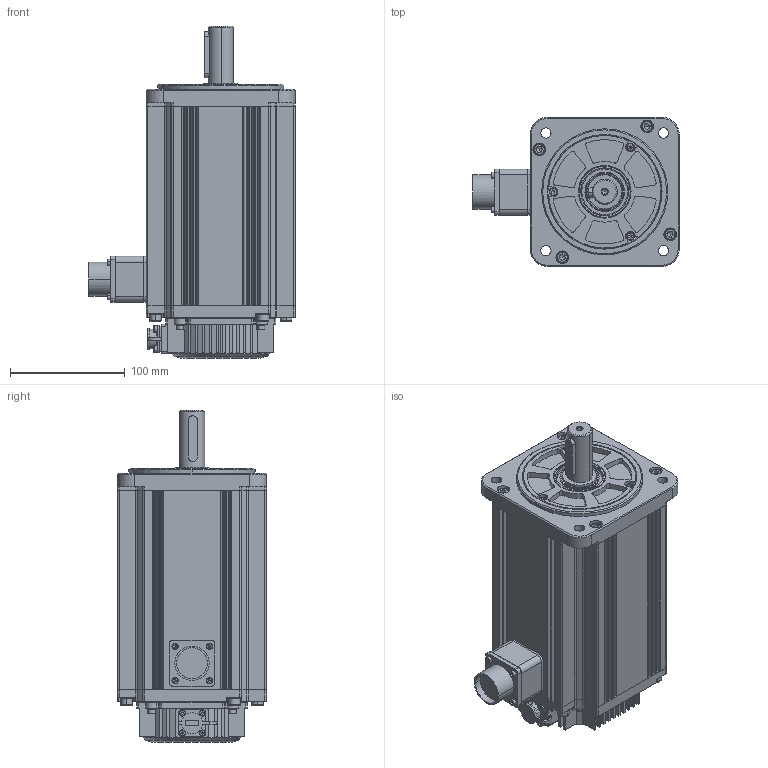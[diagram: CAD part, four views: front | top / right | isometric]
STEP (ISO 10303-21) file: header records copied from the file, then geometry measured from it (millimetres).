
FILE_DESCRIPTION (( 'STEP AP214' ), '1' );
FILE_NAME ('EMG-20((媼測湍惕掅).STEP', '2020-03-30T10:26:34', ( '' ), ( '' ), 'SwSTEP 2.0', 'SolidWorks 2018', '' );
FILE_SCHEMA (( 'AUTOMOTIVE_DESIGN' ));
Length unit declared in the file: millimetre
Products named in the file (64): hexagon socket head cap screws gb; 12; wave single coil spring lock washers gb; 11; 10; 5; 9; 8; 7; 6; 4; 3; 1; 2; EMG-20((媼測湍惕掅); hexagon socket head cap screws gb_GB_FASTENER_SCREWS_HSHCS M3X12-NHDA; hexagon socket head cap screws gb_GB_FASTENER_SCREWS_HSHCS M6X16-NHDA; wave single coil spring lock washers gb_GB_FASTENER_WASHER_WSLW 6; hexagon socket head cap screws gb_GB_FASTENER_SCREWS_HSHCS M4X12-NHDA; wave single coil spring lock washers gb_GB_FASTENER_WASHER_WSLW 4
Assembly tree (46 placements, depth 2):
  hexagon socket head cap screws gb
  hexagon socket head cap screws gb
  wave single coil spring lock washers gb
  hexagon socket head cap screws gb
  12
Bounding box: 180.05 x 130 x 289.5 mm (x, y, z)
Volume: 3087298 mm3; surface area: 347810.8 mm2
Topology: 47 solids, 48 shells, 2091 faces, 5463 edges, 3512 vertices
Faces by surface type: plane 1023, cylinder 789, cone 182, torus 68, bspline 19, sphere 10
Entity records: 58884 total; most frequent: CARTESIAN_POINT 12919, ORIENTED_EDGE 8126, DIRECTION 8093, EDGE_CURVE 4063, AXIS2_PLACEMENT_3D 2884, VERTEX_POINT 2698, LINE 2325, VECTOR 2325
